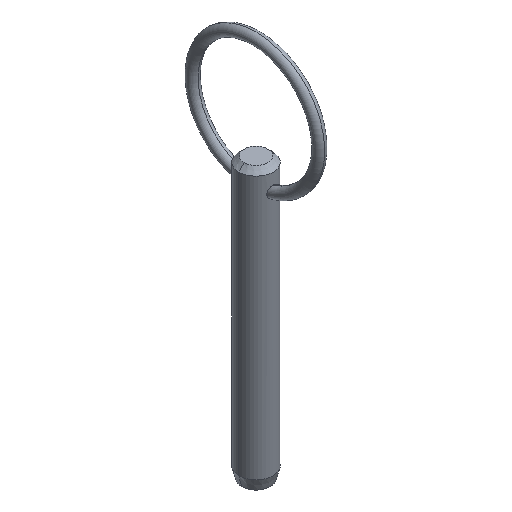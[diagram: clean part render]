
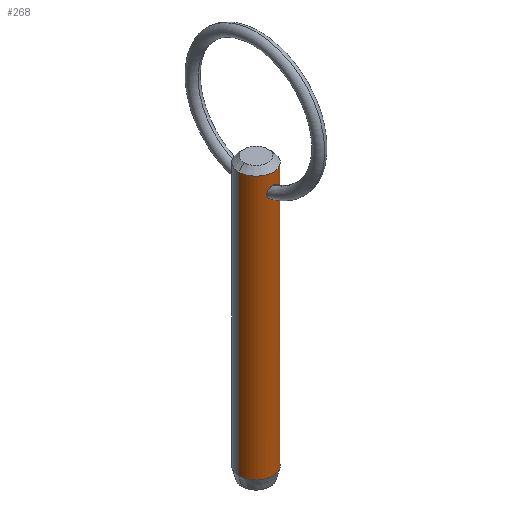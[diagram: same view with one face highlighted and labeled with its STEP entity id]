
A CAD part, isometric view. The second image highlights one B-rep face of the part: STEP entity #268.
In plain terms, the highlighted cylindrical face has radius 3.175 mm (diameter 6.35 mm), a partial arc.
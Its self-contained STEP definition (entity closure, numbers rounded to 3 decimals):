
#4 = VECTOR ( 'NONE', #142, 1000. ) ;
#12 = CARTESIAN_POINT ( 'NONE',  ( -0.328, -3.159, 40.521 ) ) ;
#21 = DIRECTION ( 'NONE',  ( 1., 0., 0. ) ) ;
#46 = DIRECTION ( 'NONE',  ( -1., 0., 0. ) ) ;
#51 = B_SPLINE_CURVE_WITH_KNOTS ( 'NONE', 3,
 ( #93, #96, #131, #351, #163, #428, #165, #431, #242, #365, #333, #371, #298, #444, #479, #251 ),
 .UNSPECIFIED., .F., .F.,
 ( 4, 2, 2, 2, 2, 2, 2, 4 ),
 ( 0.003, 0.003, 0.004, 0.004, 0.005, 0.005, 0.006, 0.006 ),
 .UNSPECIFIED. ) ;
#53 = VERTEX_POINT ( 'NONE', #130 ) ;
#55 = EDGE_CURVE ( 'NONE', #115, #53, #86, .T. ) ;
#59 = CARTESIAN_POINT ( 'NONE',  ( -3.175, 0., 42.68 ) ) ;
#75 = CARTESIAN_POINT ( 'NONE',  ( -3.175, 0., 38.1 ) ) ;
#80 = CIRCLE ( 'NONE', #125, 3.175 ) ;
#82 = DIRECTION ( 'NONE',  ( 0., 0., 1. ) ) ;
#86 = B_SPLINE_CURVE_WITH_KNOTS ( 'NONE', 3,
 ( #240, #95, #314, #164, #429, #201, #87, #346, #384, #155, #272, #418, #460, #12, #348, #420, #192, #461 ),
 .UNSPECIFIED., .F., .F.,
 ( 4, 2, 2, 2, 2, 2, 2, 2, 4 ),
 ( 0.006, 0.006, 0.007, 0.007, 0.008, 0.008, 0.009, 0.009, 0.009 ),
 .UNSPECIFIED. ) ;
#87 = CARTESIAN_POINT ( 'NONE',  ( -0.888, -3.049, 39.009 ) ) ;
#89 = VECTOR ( 'NONE', #432, 1000. ) ;
#90 = EDGE_LOOP ( 'NONE', ( #482, #210 ) ) ;
#91 = CIRCLE ( 'NONE', #399, 3.175 ) ;
#93 = CARTESIAN_POINT ( 'NONE',  ( 0., -3.175, 40.582 ) ) ;
#95 = CARTESIAN_POINT ( 'NONE',  ( -0.134, -3.175, 38.503 ) ) ;
#96 = CARTESIAN_POINT ( 'NONE',  ( 0.134, -3.175, 40.582 ) ) ;
#102 = VERTEX_POINT ( 'NONE', #176 ) ;
#108 = ORIENTED_EDGE ( 'NONE', *, *, #238, .T. ) ;
#115 = VERTEX_POINT ( 'NONE', #393 ) ;
#120 = ORIENTED_EDGE ( 'NONE', *, *, #122, .F. ) ;
#122 = EDGE_CURVE ( 'NONE', #102, #396, #225, .T. ) ;
#125 = AXIS2_PLACEMENT_3D ( 'NONE', #267, #82, #46 ) ;
#129 = FACE_BOUND ( 'NONE', #90, .T. ) ;
#130 = CARTESIAN_POINT ( 'NONE',  ( 0., -3.175, 40.582 ) ) ;
#131 = CARTESIAN_POINT ( 'NONE',  ( 0.269, -3.166, 40.55 ) ) ;
#142 = DIRECTION ( 'NONE',  ( 0., 0., -1. ) ) ;
#155 = CARTESIAN_POINT ( 'NONE',  ( -0.991, -3.016, 39.796 ) ) ;
#163 = CARTESIAN_POINT ( 'NONE',  ( 0.617, -3.116, 40.351 ) ) ;
#164 = CARTESIAN_POINT ( 'NONE',  ( -0.516, -3.135, 38.631 ) ) ;
#165 = CARTESIAN_POINT ( 'NONE',  ( 0.992, -3.016, 39.794 ) ) ;
#173 = CARTESIAN_POINT ( 'NONE',  ( 3.175, 0., 38.1 ) ) ;
#176 = CARTESIAN_POINT ( 'NONE',  ( 3.175, 0., 42.68 ) ) ;
#178 = VERTEX_POINT ( 'NONE', #320 ) ;
#192 = CARTESIAN_POINT ( 'NONE',  ( -0.067, -3.175, 40.582 ) ) ;
#201 = CARTESIAN_POINT ( 'NONE',  ( -0.815, -3.07, 38.895 ) ) ;
#202 = CYLINDRICAL_SURFACE ( 'NONE', #443, 3.175 ) ;
#210 = ORIENTED_EDGE ( 'NONE', *, *, #55, .T. ) ;
#212 = CARTESIAN_POINT ( 'NONE',  ( 0., 0., 38.1 ) ) ;
#225 = LINE ( 'NONE', #173, #89 ) ;
#235 = ORIENTED_EDGE ( 'NONE', *, *, #339, .T. ) ;
#238 = EDGE_CURVE ( 'NONE', #467, #178, #463, .T. ) ;
#240 = CARTESIAN_POINT ( 'NONE',  ( 0., -3.175, 38.503 ) ) ;
#241 = DIRECTION ( 'NONE',  ( 0., 0., -1. ) ) ;
#242 = CARTESIAN_POINT ( 'NONE',  ( 0.982, -3.02, 39.258 ) ) ;
#251 = CARTESIAN_POINT ( 'NONE',  ( 0., -3.175, 38.503 ) ) ;
#267 = CARTESIAN_POINT ( 'NONE',  ( 0., 0., -5.92 ) ) ;
#268 = ADVANCED_FACE ( 'NONE', ( #403, #129 ), #202, .T. ) ;
#272 = CARTESIAN_POINT ( 'NONE',  ( -0.882, -3.055, 40.06 ) ) ;
#285 = EDGE_CURVE ( 'NONE', #178, #396, #80, .T. ) ;
#298 = CARTESIAN_POINT ( 'NONE',  ( 0.515, -3.135, 38.63 ) ) ;
#314 = CARTESIAN_POINT ( 'NONE',  ( -0.269, -3.166, 38.529 ) ) ;
#320 = CARTESIAN_POINT ( 'NONE',  ( -3.175, 0., -5.92 ) ) ;
#322 = CARTESIAN_POINT ( 'NONE',  ( 0., 0., 42.68 ) ) ;
#333 = CARTESIAN_POINT ( 'NONE',  ( 0.815, -3.07, 38.895 ) ) ;
#339 = EDGE_CURVE ( 'NONE', #102, #467, #91, .T. ) ;
#346 = CARTESIAN_POINT ( 'NONE',  ( -0.983, -3.02, 39.259 ) ) ;
#348 = CARTESIAN_POINT ( 'NONE',  ( -0.264, -3.165, 40.544 ) ) ;
#351 = CARTESIAN_POINT ( 'NONE',  ( 0.51, -3.136, 40.434 ) ) ;
#355 = CARTESIAN_POINT ( 'NONE',  ( 3.175, 0., -5.92 ) ) ;
#361 = EDGE_LOOP ( 'NONE', ( #120, #235, #108, #450 ) ) ;
#365 = CARTESIAN_POINT ( 'NONE',  ( 0.888, -3.049, 39.009 ) ) ;
#371 = CARTESIAN_POINT ( 'NONE',  ( 0.628, -3.114, 38.704 ) ) ;
#384 = CARTESIAN_POINT ( 'NONE',  ( -1.004, -3.012, 39.395 ) ) ;
#393 = CARTESIAN_POINT ( 'NONE',  ( 0., -3.175, 38.503 ) ) ;
#396 = VERTEX_POINT ( 'NONE', #355 ) ;
#399 = AXIS2_PLACEMENT_3D ( 'NONE', #322, #241, #21 ) ;
#403 = FACE_OUTER_BOUND ( 'NONE', #361, .T. ) ;
#418 = CARTESIAN_POINT ( 'NONE',  ( -0.615, -3.116, 40.353 ) ) ;
#420 = CARTESIAN_POINT ( 'NONE',  ( -0.133, -3.173, 40.574 ) ) ;
#428 = CARTESIAN_POINT ( 'NONE',  ( 0.884, -3.055, 40.057 ) ) ;
#429 = CARTESIAN_POINT ( 'NONE',  ( -0.629, -3.114, 38.705 ) ) ;
#431 = CARTESIAN_POINT ( 'NONE',  ( 1.004, -3.012, 39.393 ) ) ;
#432 = DIRECTION ( 'NONE',  ( 0., 0., -1. ) ) ;
#441 = EDGE_CURVE ( 'NONE', #53, #115, #51, .T. ) ;
#443 = AXIS2_PLACEMENT_3D ( 'NONE', #212, #447, #455 ) ;
#444 = CARTESIAN_POINT ( 'NONE',  ( 0.268, -3.166, 38.529 ) ) ;
#447 = DIRECTION ( 'NONE',  ( 0., 0., -1. ) ) ;
#450 = ORIENTED_EDGE ( 'NONE', *, *, #285, .T. ) ;
#455 = DIRECTION ( 'NONE',  ( -1., 0., 0. ) ) ;
#460 = CARTESIAN_POINT ( 'NONE',  ( -0.508, -3.136, 40.435 ) ) ;
#461 = CARTESIAN_POINT ( 'NONE',  ( 0., -3.175, 40.582 ) ) ;
#463 = LINE ( 'NONE', #75, #4 ) ;
#467 = VERTEX_POINT ( 'NONE', #59 ) ;
#479 = CARTESIAN_POINT ( 'NONE',  ( 0.134, -3.175, 38.503 ) ) ;
#482 = ORIENTED_EDGE ( 'NONE', *, *, #441, .T. ) ;
